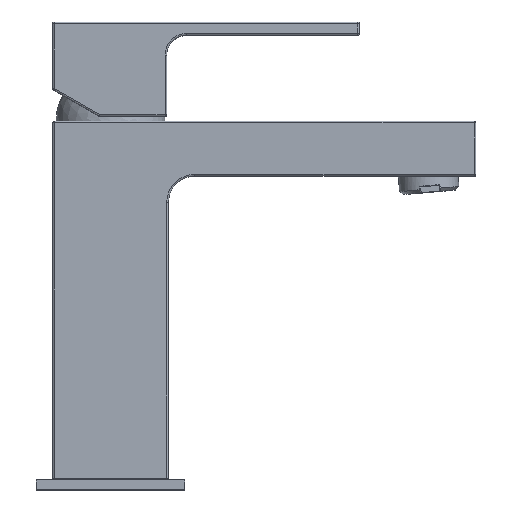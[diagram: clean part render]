
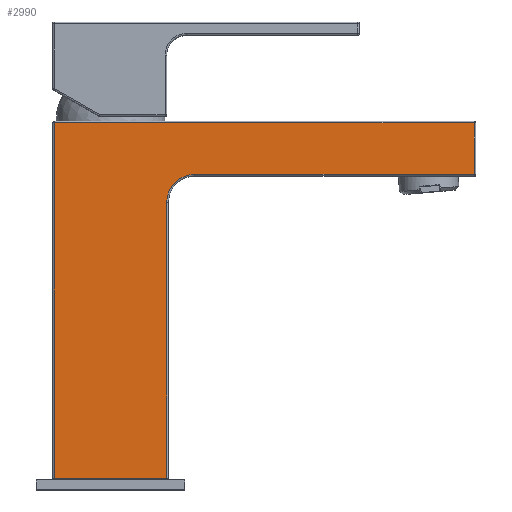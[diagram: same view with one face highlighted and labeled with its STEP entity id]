
A CAD part, top view. The second image highlights one B-rep face of the part: STEP entity #2990.
In plain terms, the highlighted planar face has unit normal (0, 0, 1).
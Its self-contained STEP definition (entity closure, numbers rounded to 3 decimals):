
#14 = ORIENTED_EDGE ( 'NONE', *, *, #1616, .T. ) ;
#40 = CARTESIAN_POINT ( 'NONE',  ( 17., 86.888, 17.5 ) ) ;
#66 = AXIS2_PLACEMENT_3D ( 'NONE', #3428, #1340, #3403 ) ;
#97 = VERTEX_POINT ( 'NONE', #4413 ) ;
#150 = CARTESIAN_POINT ( 'NONE',  ( 110.5, 95.388, 17.5 ) ) ;
#339 = CARTESIAN_POINT ( 'NONE',  ( 25.5, 95.388, 17.5 ) ) ;
#362 = ORIENTED_EDGE ( 'NONE', *, *, #3108, .T. ) ;
#423 = CARTESIAN_POINT ( 'NONE',  ( 17.5, 3.5, 17.5 ) ) ;
#456 = EDGE_LOOP ( 'NONE', ( #3959, #772, #362, #2668, #3136, #14, #1696 ) ) ;
#470 = VECTOR ( 'NONE', #2835, 1000. ) ;
#581 = CARTESIAN_POINT ( 'NONE',  ( -17., 111., 17.5 ) ) ;
#743 = EDGE_CURVE ( 'NONE', #1229, #777, #1443, .T. ) ;
#772 = ORIENTED_EDGE ( 'NONE', *, *, #1073, .T. ) ;
#777 = VERTEX_POINT ( 'NONE', #339 ) ;
#922 = CARTESIAN_POINT ( 'NONE',  ( 17.5, 111.5, 17.5 ) ) ;
#925 = DIRECTION ( 'NONE',  ( 0., -1., 0. ) ) ;
#1073 = EDGE_CURVE ( 'NONE', #2027, #1116, #3629, .T. ) ;
#1116 = VERTEX_POINT ( 'NONE', #2993 ) ;
#1170 = VECTOR ( 'NONE', #2833, 1000. ) ;
#1229 = VERTEX_POINT ( 'NONE', #40 ) ;
#1340 = DIRECTION ( 'NONE',  ( 0., 0., -1. ) ) ;
#1357 = EDGE_CURVE ( 'NONE', #97, #3324, #1463, .T. ) ;
#1443 = CIRCLE ( 'NONE', #66, 8.5 ) ;
#1463 = LINE ( 'NONE', #2925, #1170 ) ;
#1616 = EDGE_CURVE ( 'NONE', #777, #97, #2180, .T. ) ;
#1696 = ORIENTED_EDGE ( 'NONE', *, *, #1357, .T. ) ;
#1730 = LINE ( 'NONE', #423, #470 ) ;
#1831 = VERTEX_POINT ( 'NONE', #2010 ) ;
#1938 = DIRECTION ( 'NONE',  ( 0., 1., 0. ) ) ;
#2010 = CARTESIAN_POINT ( 'NONE',  ( 17., 3.5, 17.5 ) ) ;
#2027 = VERTEX_POINT ( 'NONE', #581 ) ;
#2180 = LINE ( 'NONE', #150, #2980 ) ;
#2240 = CARTESIAN_POINT ( 'NONE',  ( -17., 111.5, 17.5 ) ) ;
#2293 = VECTOR ( 'NONE', #925, 1000. ) ;
#2296 = DIRECTION ( 'NONE',  ( 0., 0., -1. ) ) ;
#2311 = CARTESIAN_POINT ( 'NONE',  ( 110., 111., 17.5 ) ) ;
#2414 = EDGE_CURVE ( 'NONE', #3324, #2027, #3129, .T. ) ;
#2501 = CARTESIAN_POINT ( 'NONE',  ( -17.5, 111., 17.5 ) ) ;
#2634 = FACE_OUTER_BOUND ( 'NONE', #456, .T. ) ;
#2668 = ORIENTED_EDGE ( 'NONE', *, *, #3969, .T. ) ;
#2833 = DIRECTION ( 'NONE',  ( 0., 1., 0. ) ) ;
#2835 = DIRECTION ( 'NONE',  ( 1., 0., 0. ) ) ;
#2925 = CARTESIAN_POINT ( 'NONE',  ( 110., 111.5, 17.5 ) ) ;
#2980 = VECTOR ( 'NONE', #3238, 1000. ) ;
#2990 = ADVANCED_FACE ( 'NONE', ( #2634 ), #3991, .F. ) ;
#2993 = CARTESIAN_POINT ( 'NONE',  ( -17., 3.5, 17.5 ) ) ;
#3108 = EDGE_CURVE ( 'NONE', #1116, #1831, #1730, .T. ) ;
#3120 = VECTOR ( 'NONE', #3464, 1000. ) ;
#3129 = LINE ( 'NONE', #2501, #3120 ) ;
#3136 = ORIENTED_EDGE ( 'NONE', *, *, #743, .T. ) ;
#3238 = DIRECTION ( 'NONE',  ( 1., 0., 0. ) ) ;
#3324 = VERTEX_POINT ( 'NONE', #2311 ) ;
#3403 = DIRECTION ( 'NONE',  ( -1., 0., 0. ) ) ;
#3428 = CARTESIAN_POINT ( 'NONE',  ( 25.5, 86.888, 17.5 ) ) ;
#3464 = DIRECTION ( 'NONE',  ( -1., 0., 0. ) ) ;
#3629 = LINE ( 'NONE', #2240, #2293 ) ;
#3665 = DIRECTION ( 'NONE',  ( -1., 0., 0. ) ) ;
#3706 = VECTOR ( 'NONE', #1938, 1000. ) ;
#3845 = AXIS2_PLACEMENT_3D ( 'NONE', #922, #2296, #3665 ) ;
#3954 = LINE ( 'NONE', #4307, #3706 ) ;
#3959 = ORIENTED_EDGE ( 'NONE', *, *, #2414, .T. ) ;
#3969 = EDGE_CURVE ( 'NONE', #1831, #1229, #3954, .T. ) ;
#3991 = PLANE ( 'NONE',  #3845 ) ;
#4307 = CARTESIAN_POINT ( 'NONE',  ( 17., 111.5, 17.5 ) ) ;
#4413 = CARTESIAN_POINT ( 'NONE',  ( 110., 95.388, 17.5 ) ) ;
